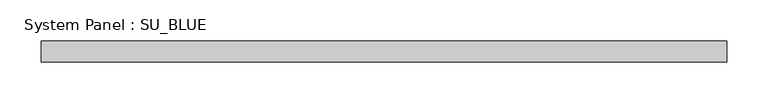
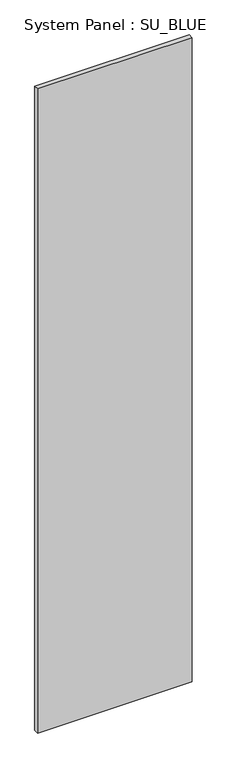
"""IFC4 building model written with IfcOpenShell, lengths in millimetres: plate geometry, System Panel : SU_BLUE."""

from ifc_helpers import new_model, si_unit, origin, origin_with_axes, place, context, project, spatial, polyline, outline, extrude, source, transform, mapped, element, save


def system_panel_su_blue_923806a4(model_context):
    return source(origin(), model_context, "Body", "SweptSolid", [
        extrude(outline(polyline([(415.3596123, 19.05), (-415.3596123, 19.05), (-415.3596123, 44.45), (415.3596123, 44.45), (415.3596123, 19.05)])), origin_with_axes(), (0.0, 0.0, 1.0), 3657.6),
    ])


if __name__ == "__main__":
    model = new_model("IFC4")
    model_context = context("Model", 3, world=origin())
    ifc_project = project(units=[si_unit("LENGTHUNIT", "METRE", prefix="MILLI")], contexts=[model_context])
    site = spatial("IfcSite", under=ifc_project)
    building = spatial("IfcBuilding", under=site)
    placement = place(None, origin())
    system_panel_su_blue_shape = system_panel_su_blue_923806a4(model_context)
    element("IfcPlate", 1, ObjectType="System Panel : SU_BLUE", at=placement, inside=building, context=model_context, shape_type="MappedRepresentation", body=[
        mapped(system_panel_su_blue_shape, transform((0.0, 0.0, 0.0), x_axis=(1.0, 0.0, 0.0), y_axis=(0.0, 1.0, 0.0), z_axis=(0.0, 0.0, 1.0))),
    ])
    save(model, "model.ifc")
